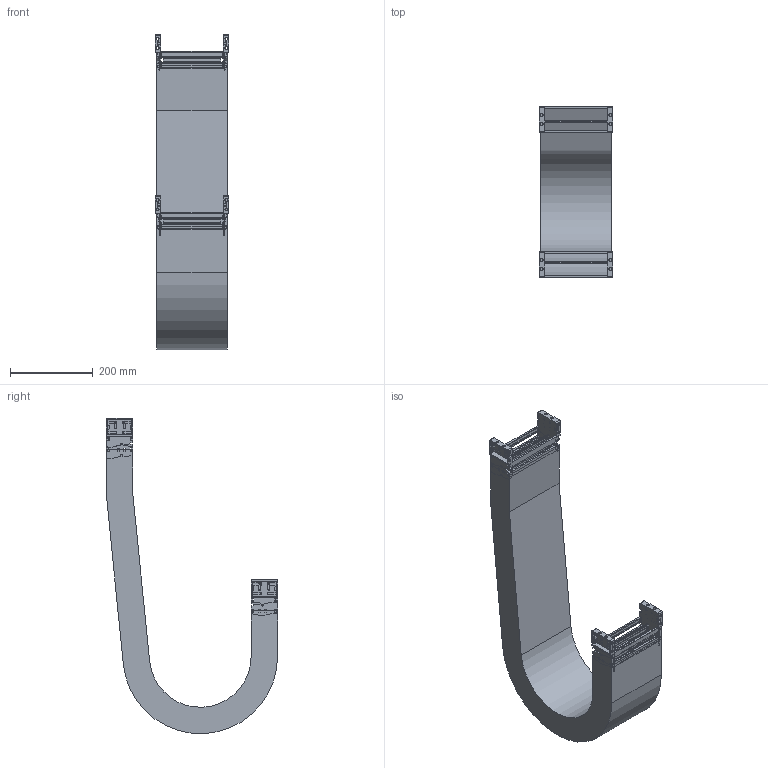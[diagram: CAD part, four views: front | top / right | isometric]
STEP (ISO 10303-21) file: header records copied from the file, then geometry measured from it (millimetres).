
FILE_DESCRIPTION((''),'2;1');
FILE_NAME('KST-50150-150_ASM','2017-12-07T',('KUNI004K'),(''),'PRO/ENGINEER BY PARAMETRIC TECHNOLOGY CORPORATION, 2015200','PRO/ENGINEER BY PARAMETRIC TECHNOLOGY CORPORATION, 2015200','');
FILE_SCHEMA(('AUTOMOTIVE_DESIGN { 1 0 10303 214 1 1 1 1 }'));
Length unit declared in the file: millimetre
Products named in the file (13): 50FBR; 50FBL; 40150C; KST50FB_W150_ASM; KST50150R; KST50150L; 40150H; KST50150-150_1_ASM; KST50150_R150_BODY; 50MBR; 50MBL; KST50MB_W150_ASM; KST-50150-150_ASM
Assembly tree (19 placements, depth 3):
  KST-50150-150_ASM
    KST50FB_W150_ASM
      50FBR
      50FBL
      40150C  x2
    KST50150-150_1_ASM  x2
      KST50150R
      KST50150L
      40150C
      40150H
    KST50150_R150_BODY
    KST50MB_W150_ASM
      50MBR
      50MBL
      40150C  x2
Bounding box: 178 x 414 x 762.32 mm (x, y, z)
Volume: 3937617.1 mm3; surface area: 1470964.6 mm2
Topology: 21 solids, 21 shells, 3016 faces, 8286 edges, 5340 vertices
Faces by surface type: plane 1598, cylinder 1042, bspline 308, torus 68
Entity records: 71135 total; most frequent: CARTESIAN_POINT 14287, ORIENTED_EDGE 7640, DIRECTION 6928, PRESENTATION_STYLE_ASSIGNMENT 5208, STYLED_ITEM 5208, CURVE_STYLE 3820, EDGE_CURVE 3820, VECTOR 2488
